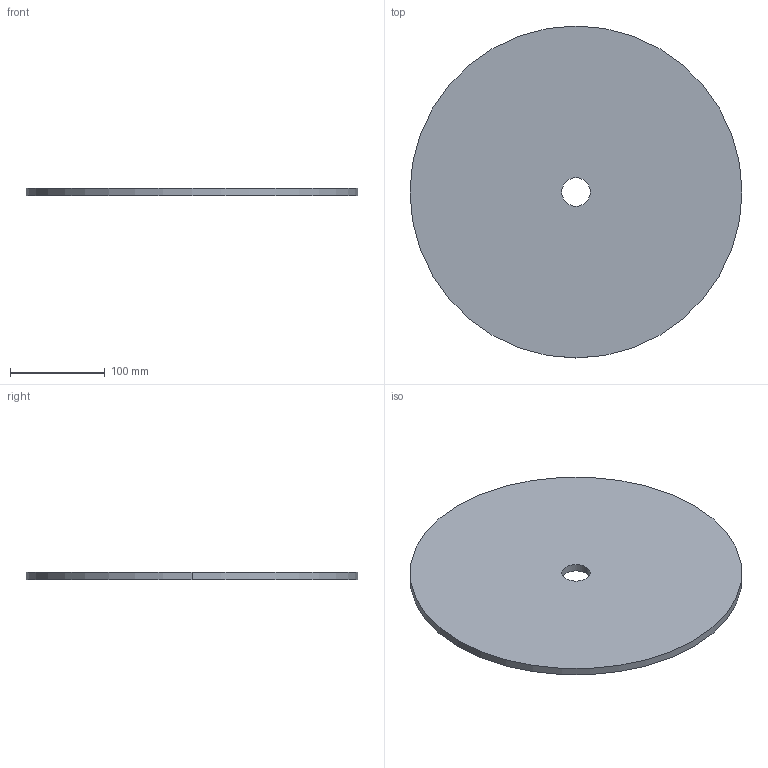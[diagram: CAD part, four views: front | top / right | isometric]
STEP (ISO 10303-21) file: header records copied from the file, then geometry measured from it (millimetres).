
FILE_DESCRIPTION (( 'STEP AP214' ), '1' );
FILE_NAME ('DISCO 35.STEP', '2026-02-11T16:55:25', ( '' ), ( '' ), 'SwSTEP 2.0', 'SolidWorks 2023', '' );
FILE_SCHEMA (( 'AUTOMOTIVE_DESIGN' ));
Length unit declared in the file: millimetre
Products named in the file (1): DISCO 35
Bounding box: 350 x 350 x 8 mm (x, y, z)
Volume: 764035.3 mm3; surface area: 200559.3 mm2
Topology: 1 solids, 1 shells, 6 faces, 12 edges, 8 vertices
Faces by surface type: cylinder 4, plane 2
Entity records: 191 total; most frequent: DIRECTION 34, CARTESIAN_POINT 27, ORIENTED_EDGE 24, AXIS2_PLACEMENT_3D 15, EDGE_CURVE 12, CIRCLE 8, VERTEX_POINT 8, EDGE_LOOP 8
